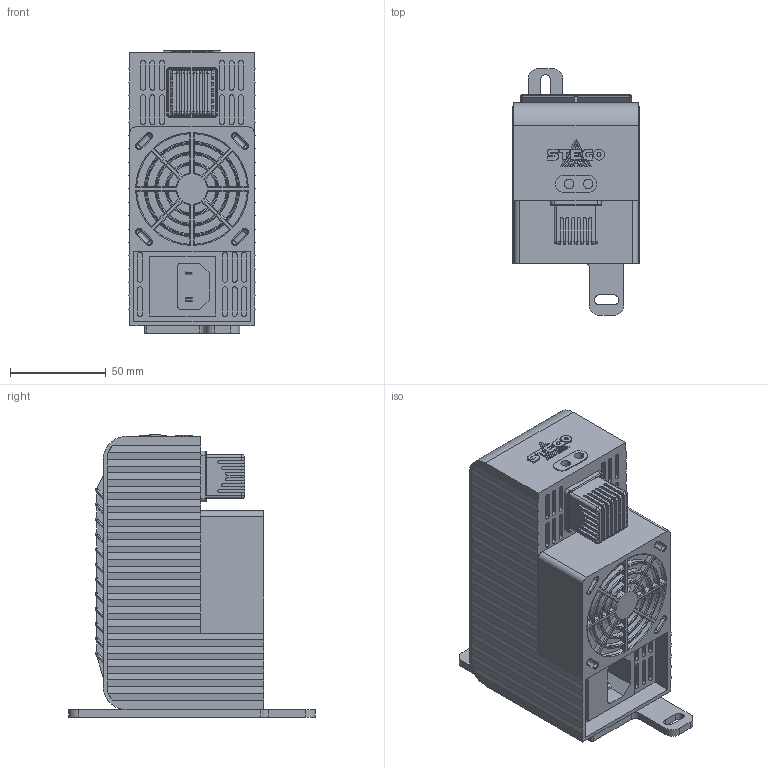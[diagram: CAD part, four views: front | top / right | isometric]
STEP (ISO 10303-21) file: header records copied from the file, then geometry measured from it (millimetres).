
FILE_DESCRIPTION (( 'STEP AP214' ), '1' );
FILE_NAME ('CSF03209.0-01_eplan_08_2013.STEP', '2013-08-23T12:18:35', ( 'Nutzer' ), ( '' ), 'SwSTEP 2.0', 'SolidWorks 2013', '' );
FILE_SCHEMA (( 'AUTOMOTIVE_DESIGN' ));
Length unit declared in the file: millimetre
Products named in the file (1): CSF03209.0-01_eplan_08_2013
Bounding box: 66 x 129 x 147.85 mm (x, y, z)
Volume: 687793.7 mm3; surface area: 79434.4 mm2
Topology: 1 solids, 3 shells, 1325 faces, 3361 edges, 2080 vertices
Faces by surface type: plane 738, cylinder 410, torus 84, sphere 72, bspline 21
Entity records: 41319 total; most frequent: CARTESIAN_POINT 8015, ORIENTED_EDGE 6586, DIRECTION 6482, EDGE_CURVE 3293, VECTOR 2252, LINE 2252, AXIS2_PLACEMENT_3D 2115, VERTEX_POINT 2048
